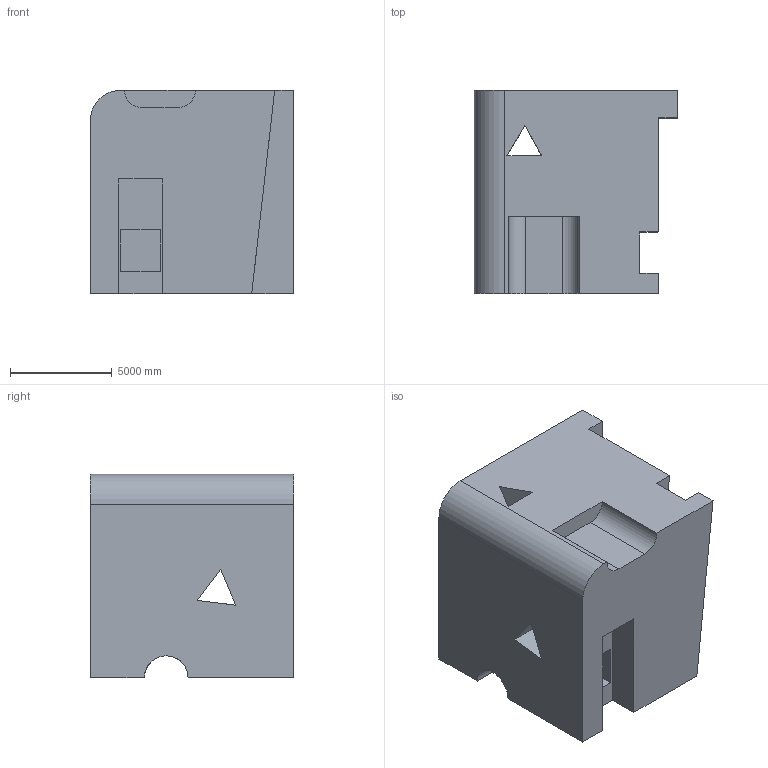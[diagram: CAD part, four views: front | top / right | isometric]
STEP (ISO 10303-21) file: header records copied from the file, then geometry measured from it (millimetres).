
FILE_DESCRIPTION (( 'STEP AP203' ), '1' );
FILE_NAME ('810.STEP', '2022-07-29T13:22:47', ( 'user' ), ( '' ), 'SwSTEP 2.0', 'SolidWorks 2021', '' );
FILE_SCHEMA (( 'CONFIG_CONTROL_DESIGN' ));
Length unit declared in the file: centimetre
Products named in the file (1): 810
Bounding box: 10000 x 10000 x 10000 mm (x, y, z)
Volume: 777232779152.1 mm3; surface area: 715945565.8 mm2
Topology: 1 solids, 1 shells, 35 faces, 102 edges, 68 vertices
Faces by surface type: plane 30, cylinder 5
Entity records: 1229 total; most frequent: CARTESIAN_POINT 218, ORIENTED_EDGE 204, DIRECTION 178, EDGE_CURVE 102, VECTOR 90, LINE 90, VERTEX_POINT 68, AXIS2_PLACEMENT_3D 44
